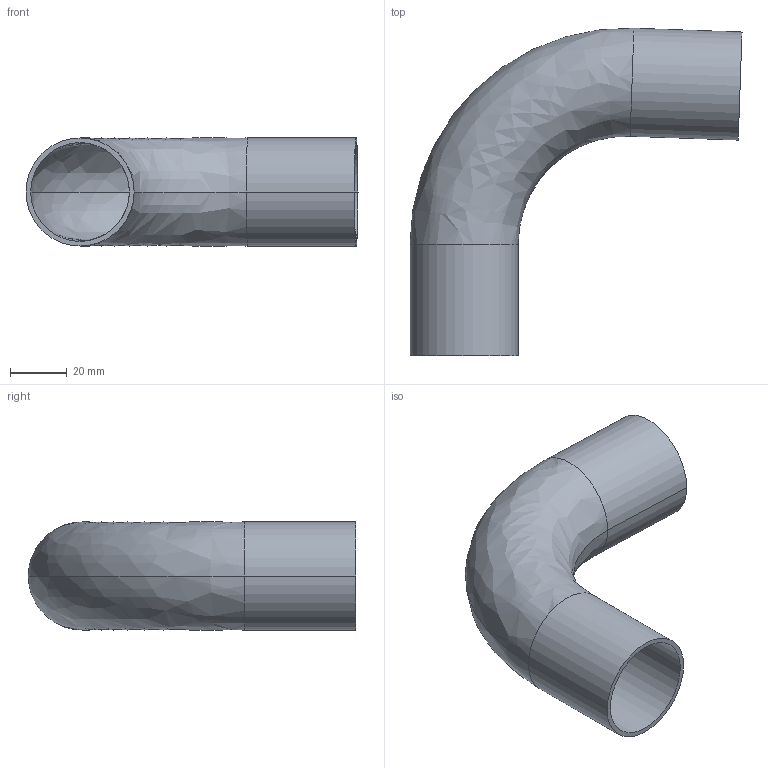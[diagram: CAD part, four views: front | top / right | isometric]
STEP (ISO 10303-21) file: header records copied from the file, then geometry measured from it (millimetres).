
FILE_DESCRIPTION (( 'STEP AP214' ), '1' );
FILE_NAME ('TE2S926L1.5-...STEP', '2016-05-22T11:20:52', ( 'eran' ), ( '' ), 'SwSTEP 2.0', 'SolidWorks 2016', '' );
FILE_SCHEMA (( 'AUTOMOTIVE_DESIGN' ));
Length unit declared in the file: millimetre
Products named in the file (1): TE2S926L1.5-..
Bounding box: 116.99 x 115.37 x 38.1 mm (x, y, z)
Volume: 31953.7 mm3; surface area: 39109.6 mm2
Topology: 1 solids, 1 shells, 14 faces, 28 edges, 16 vertices
Faces by surface type: cylinder 8, bspline 4, plane 2
Entity records: 450 total; most frequent: CARTESIAN_POINT 119, DIRECTION 70, ORIENTED_EDGE 56, AXIS2_PLACEMENT_3D 31, EDGE_CURVE 28, CIRCLE 20, EDGE_LOOP 16, VERTEX_POINT 16
